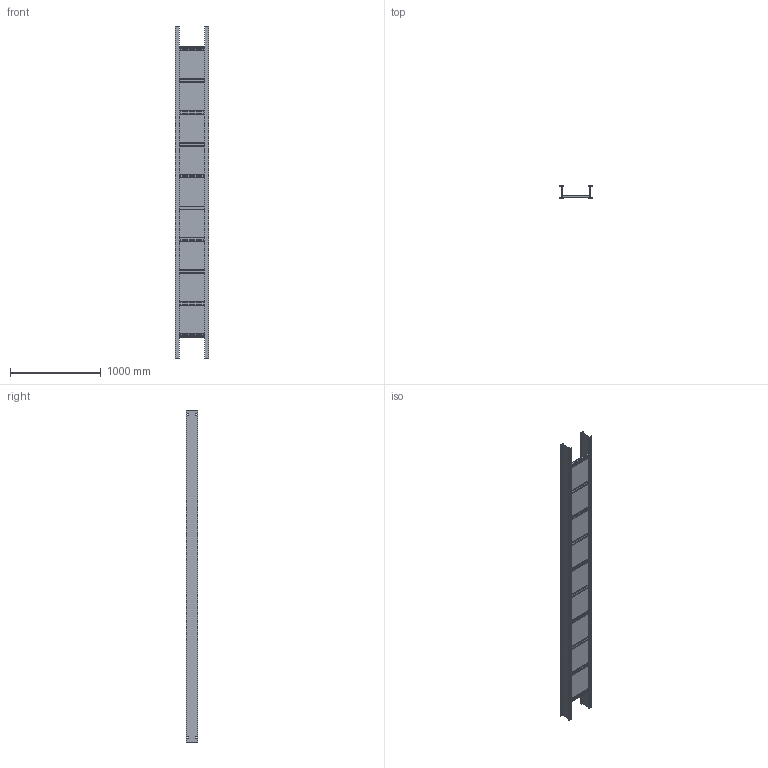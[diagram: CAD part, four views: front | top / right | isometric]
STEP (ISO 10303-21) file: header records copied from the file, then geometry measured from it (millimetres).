
FILE_DESCRIPTION((''),'2;1');
FILE_NAME('AH4512L06144_ASM','2010-02-05T',('erouzier'),(''),'PRO/ENGINEER BY PARAMETRIC TECHNOLOGY CORPORATION, 2008510','PRO/ENGINEER BY PARAMETRIC TECHNOLOGY CORPORATION, 2008510','');
FILE_SCHEMA(('CONFIG_CONTROL_DESIGN'));
Length unit declared in the file: inch
Products named in the file (13): CDS002126-007_AF3; CDS002126-007_AF4; CDS002159L12-P_AF0; CDS002159L12-P_AF1; CDS002159L12-P_AF2; CDS002159L12-P_AF3; CDS002159L12-P_AF4; CDS002159L12-P_AF5; CDS002159L12-P_AF6; CDS002159L12-P_AF7; CDS002159L12-P_AF8; CDS002159L12-P_AF9; AH4512L06144_ASM
Assembly tree (12 placements, depth 2):
  AH4512L06144_ASM
    CDS002126-007_AF3
    CDS002126-007_AF4
    CDS002159L12-P_AF0
    CDS002159L12-P_AF1
    CDS002159L12-P_AF2
    CDS002159L12-P_AF3
    CDS002159L12-P_AF4
    CDS002159L12-P_AF5
    CDS002159L12-P_AF6
    CDS002159L12-P_AF7
    CDS002159L12-P_AF8
    CDS002159L12-P_AF9
Bounding box: 367.03 x 130.05 x 3657.6 mm (x, y, z)
Volume: 4834256.7 mm3; surface area: 4827503 mm2
Topology: 12 solids, 13 shells, 1177 faces, 3460 edges, 2308 vertices
Faces by surface type: plane 663, cylinder 514
Entity records: 40083 total; most frequent: CARTESIAN_POINT 6970, ORIENTED_EDGE 6916, DIRECTION 6892, EDGE_CURVE 3460, VECTOR 2432, LINE 2432, VERTEX_POINT 2308, AXIS2_PLACEMENT_3D 2230
